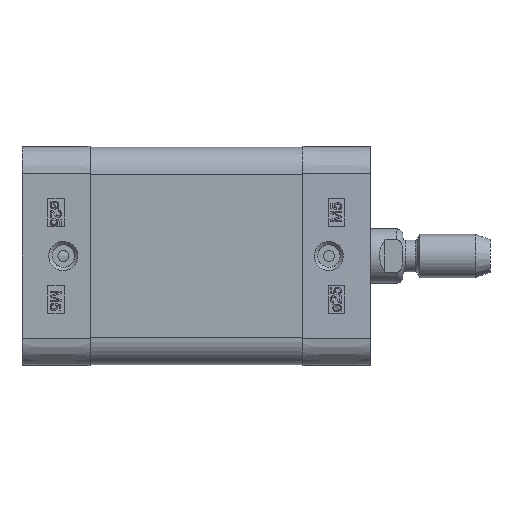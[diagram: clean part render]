
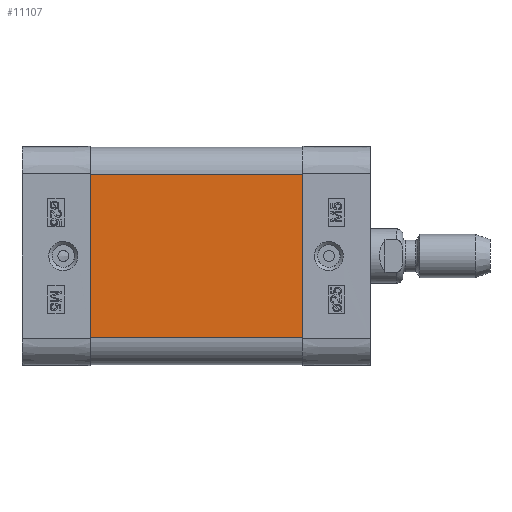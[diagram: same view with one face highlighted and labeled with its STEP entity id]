
A CAD part, left-side view. The second image highlights one B-rep face of the part: STEP entity #11107.
In plain terms, the highlighted planar face has unit normal (-1, 0, 0).
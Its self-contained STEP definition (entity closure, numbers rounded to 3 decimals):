
#8889=CARTESIAN_POINT('',(-20.,-39.0,15.0));
#8890=VERTEX_POINT('',#8889);
#8898=CARTESIAN_POINT('',(-20.,-39.0,-15.));
#8899=VERTEX_POINT('',#8898);
#8900=CARTESIAN_POINT('',(-20.,-39.0,-15.));
#8901=DIRECTION('',(0.0,0.0,1.0));
#8902=VECTOR('',#8901,30.);
#8903=LINE('',#8900,#8902);
#8904=EDGE_CURVE('',#8899,#8890,#8903,.T.);
#10035=CARTESIAN_POINT('',(-20.,0.0,15.0));
#10036=VERTEX_POINT('',#10035);
#10044=CARTESIAN_POINT('',(-20.,0.0,15.0));
#10045=DIRECTION('',(0.0,-1.0,0.0));
#10046=VECTOR('',#10045,39.0);
#10047=LINE('',#10044,#10046);
#10048=EDGE_CURVE('',#10036,#8890,#10047,.T.);
#11072=CARTESIAN_POINT('',(-20.,0.0,-15.));
#11073=VERTEX_POINT('',#11072);
#11074=CARTESIAN_POINT('',(-20.,0.0,-15.));
#11075=DIRECTION('',(0.0,-1.0,0.0));
#11076=VECTOR('',#11075,39.0);
#11077=LINE('',#11074,#11076);
#11078=EDGE_CURVE('',#11073,#8899,#11077,.T.);
#11091=CARTESIAN_POINT('',(-20.,0.0,-15.));
#11092=DIRECTION('',(-1.0,0.0,0.0));
#11093=DIRECTION('',(0.0,0.0,1.0));
#11094=AXIS2_PLACEMENT_3D('',#11091,#11092,#11093);
#11095=PLANE('',#11094);
#11096=ORIENTED_EDGE('',*,*,#8904,.T.);
#11097=ORIENTED_EDGE('',*,*,#10048,.F.);
#11098=CARTESIAN_POINT('',(-20.,0.0,-15.));
#11099=DIRECTION('',(0.0,0.0,1.0));
#11100=VECTOR('',#11099,30.);
#11101=LINE('',#11098,#11100);
#11102=EDGE_CURVE('',#11073,#10036,#11101,.T.);
#11103=ORIENTED_EDGE('',*,*,#11102,.F.);
#11104=ORIENTED_EDGE('',*,*,#11078,.T.);
#11105=EDGE_LOOP('',(#11096,#11097,#11103,#11104));
#11106=FACE_OUTER_BOUND('',#11105,.T.);
#11107=ADVANCED_FACE('',(#11106),#11095,.T.);
